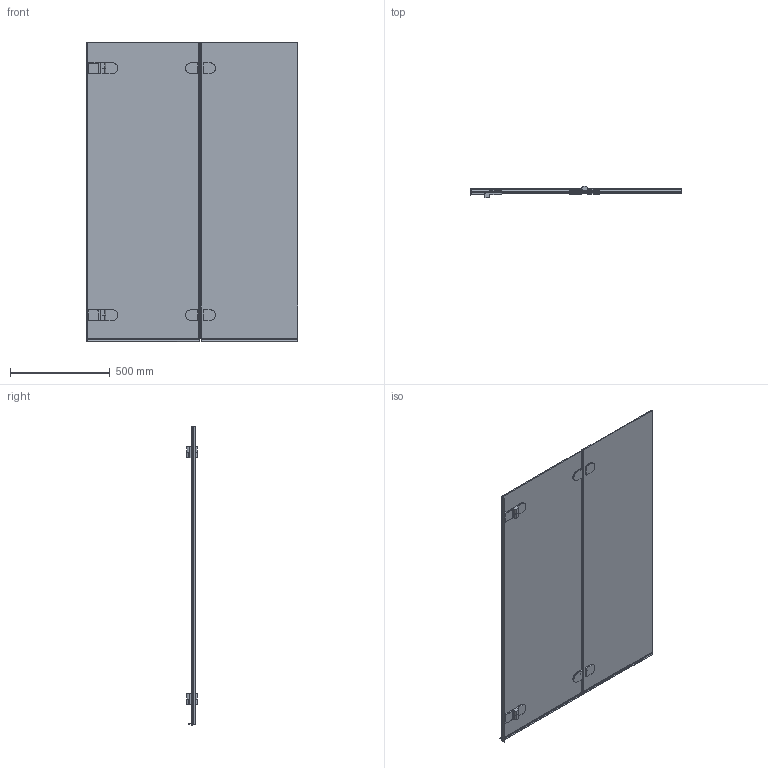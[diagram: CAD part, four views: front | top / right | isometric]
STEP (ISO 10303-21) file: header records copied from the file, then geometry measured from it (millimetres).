
FILE_DESCRIPTION(/* description */ (''),/* implementation_level */ '2;1');
FILE_NAME(/* name */ 'D:\!\!\LUX PEARL GV-002A-2511\LUX PEARL GV-002A-2511 левая модель\LUX PEARL GV-002A-2511 ЛЕВАЯ-3D.stp',/* time_stamp */ '2019-11-22T20:43:41+03:00',/* author */ ('User'),/* organization */ (''),/* preprocessor_version */ 'ST-DEVELOPER v15.2',/* originating_system */ 'Autodesk Inventor 2014',/* authorisation */ '');
FILE_SCHEMA (('CONFIG_CONTROL_DESIGN'));
Length unit declared in the file: millimetre
Products named in the file (1): LUX PEARL GV-002A-2511 ЛЕВАЯ-3D
Bounding box: 1064.36 x 54 x 1503.4 mm (x, y, z)
Volume: 10045810 mm3; surface area: 3521853.1 mm2
Topology: 4 solids, 14 shells, 409 faces, 1057 edges, 702 vertices
Faces by surface type: plane 259, cylinder 150
Full cylindrical faces by diameter (mm): 7 x2, 11 x4, 12 x4
Entity records: 13152 total; most frequent: CARTESIAN_POINT 2548, DIRECTION 2092, ORIENTED_EDGE 2088, EDGE_CURVE 1043, LINE 714, VECTOR 714, VERTEX_POINT 699, AXIS2_PLACEMENT_3D 689
